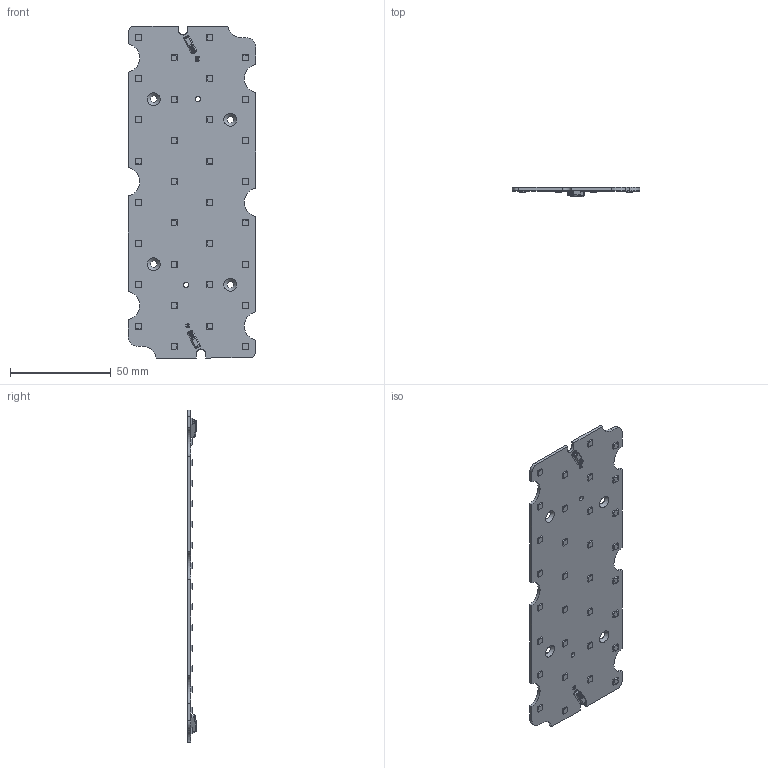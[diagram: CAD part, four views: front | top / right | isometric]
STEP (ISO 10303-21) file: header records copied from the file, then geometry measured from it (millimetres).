
FILE_DESCRIPTION(/* description */ ('Unknown'),/* implementation_level */ '2;1');
FILE_NAME(/* name */ 'RecLED 165x64mm 1700lm THEIA-IP-32 sh-000 2024-06-20',/* time_stamp */ '2024-06-20T09:27:43+02:00',/* author */ ('Unknown'),/* organization */ ('Unknown'),/* preprocessor_version */ 'ST-DEVELOPER v18.102',/* originating_system */ 'Solid Edge',/* authorisation */ 'Unknown');
FILE_SCHEMA (('AUTOMOTIVE_DESIGN {1 0 10303 214 3 1 1}'));
Length unit declared in the file: millimetre
Products named in the file (1): RecLED 165x64mm 1700lm THEIA-IP-32 sh-000 2024-06-20
Bounding box: 63.4 x 4.23 x 165 mm (x, y, z)
Volume: 15050 mm3; surface area: 21057 mm2
Topology: 1 solids, 1 shells, 958 faces, 2536 edges, 1686 vertices
Faces by surface type: plane 836, cylinder 96, bspline 16, cone 6, sphere 4
Full cylindrical faces by diameter (mm): 1.25 x2, 2.1 x2, 2.6 x2
Entity records: 36473 total; most frequent: CARTESIAN_POINT 6151, ORIENTED_EDGE 5036, DIRECTION 4426, EDGE_CURVE 2518, LINE 2200, VECTOR 2200, VERTEX_POINT 1678, AXIS2_PLACEMENT_3D 1113
